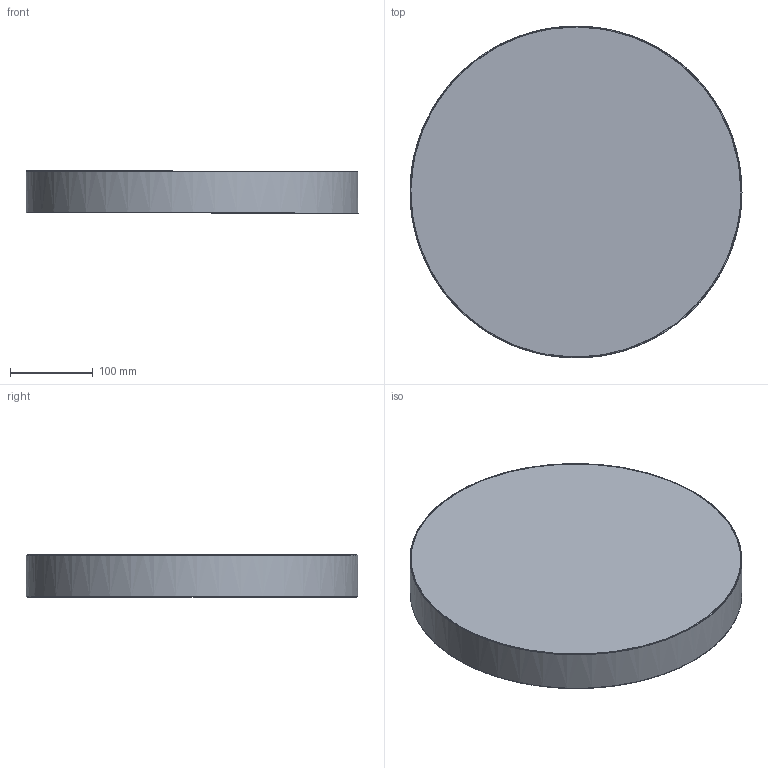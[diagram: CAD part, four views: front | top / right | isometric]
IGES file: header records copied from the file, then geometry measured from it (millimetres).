
Global section: file name: C:\Users\EQUIPO\Desktop\COLECCIONES ACB MODELADAS 3D OK\LONDON\london-3760-40-led (IGES).igs; native system: Rhinoceros ( Oct  8 2013 ); preprocessor: Trout Lake IGES 012 Oct  8 2013; date: 190207.114831; units: millimetre
Bounding box: 400.16 x 399.99 x 51.51 mm (x, y, z)
Surface area: 660904.5 mm2 (no closed solid volume)
Topology: 0 solids, 0 shells, 12 faces, 126 edges, 120 vertices
Faces by surface type: bspline 12
